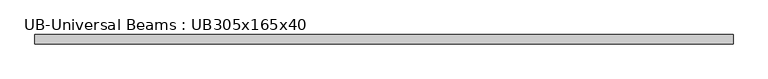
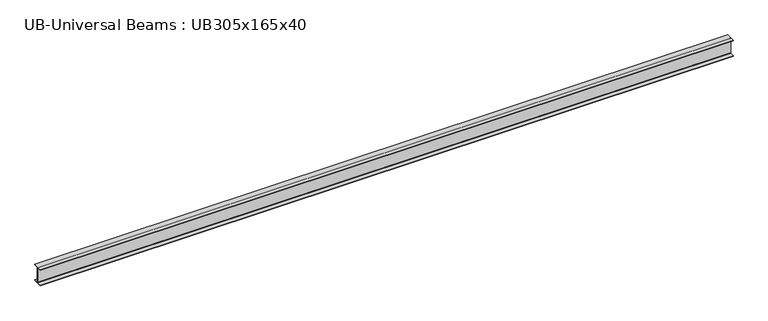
"""IFC4 building model written with IfcOpenShell, lengths in millimetres: beam geometry, UB-Universal Beams : UB305x165x40."""

from ifc_helpers import new_model, si_unit, point, frame, frame_2d, origin, place, context, project, spatial, polyline, circle_curve, trimmed, segment, composite_curve, outline, extrude, source, transform, mapped, element, save


def ub_universal_beams_ub305x165x40_b5175b7f(model_context):
    return source(origin(), model_context, "Body", "SweptSolid", [
        extrude(outline(composite_curve([segment(polyline([(82.5, -141.5), (82.5, -151.7), (-82.5, -151.7), (-82.5, -141.5), (-11.9, -141.5)]), True, "CONTINUOUS"), segment(trimmed(circle_curve(frame_2d((-11.9, -132.6)), 8.9), [point((-11.9, -141.5))], [point((-3.0, -132.6))], True, "CARTESIAN"), True, "CONTINUOUS"), segment(polyline([(-3.0, -132.6), (-3.0, 132.6)]), True, "CONTINUOUS"), segment(trimmed(circle_curve(frame_2d((-11.9, 132.6)), 8.9), [point((-3.0, 132.6))], [point((-11.9, 141.5))], True, "CARTESIAN"), True, "CONTINUOUS"), segment(polyline([(-11.9, 141.5), (-82.5, 141.5), (-82.5, 151.7), (82.5, 151.7), (82.5, 141.5), (11.9, 141.5)]), True, "CONTINUOUS"), segment(trimmed(circle_curve(frame_2d((11.9, 132.6)), 8.9), [point((11.9, 141.5))], [point((3.0, 132.6))], True, "CARTESIAN"), True, "CONTINUOUS"), segment(polyline([(3.0, 132.6), (3.0, -132.6)]), True, "CONTINUOUS"), segment(trimmed(circle_curve(frame_2d((11.9, -132.6)), 8.9), [point((3.0, -132.6))], [point((11.9, -141.5))], True, "CARTESIAN"), True, "CONTINUOUS"), segment(polyline([(11.9, -141.5), (82.5, -141.5)]), True, "CONTINUOUS")], self_intersect=False)), frame((-6155.9, 0.0, 0.0), z_axis=(1.0, 0.0, 0.0), x_axis=(0.0, 1.0, 0.0)), (0.0, 0.0, 1.0), 12438.5),
    ])


if __name__ == "__main__":
    model = new_model("IFC4")
    model_context = context("Model", 3, world=origin())
    ifc_project = project(units=[si_unit("LENGTHUNIT", "METRE", prefix="MILLI")], contexts=[model_context])
    site = spatial("IfcSite", under=ifc_project)
    building = spatial("IfcBuilding", under=site)
    placement = place(None, origin())
    ub_universal_beams_ub305x165x40_shape = ub_universal_beams_ub305x165x40_b5175b7f(model_context)
    element("IfcBeam", 1, ObjectType="UB-Universal Beams : UB305x165x40", at=placement, inside=building, context=model_context, shape_type="MappedRepresentation", body=[
        mapped(ub_universal_beams_ub305x165x40_shape, transform((0.0, 0.0, 0.0), x_axis=(1.0, 0.0, 0.0), y_axis=(0.0, 1.0, 0.0), z_axis=(0.0, 0.0, 1.0))),
    ])
    save(model, "model.ifc")
